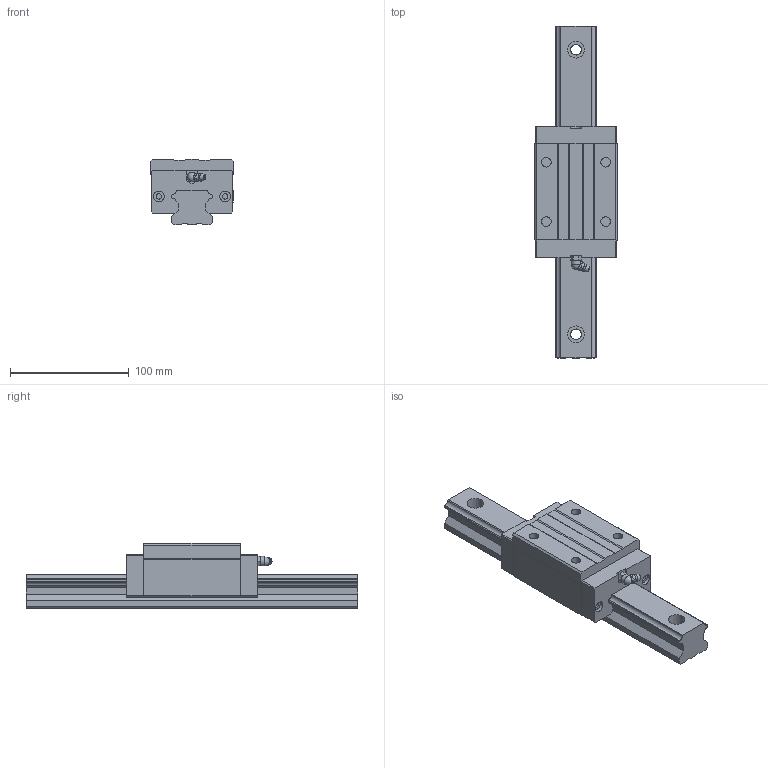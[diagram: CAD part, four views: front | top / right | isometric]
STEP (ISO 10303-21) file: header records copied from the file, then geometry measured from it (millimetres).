
FILE_DESCRIPTION(/* description */ (''),/* implementation_level */ '2;1');
FILE_NAME(/* name */ '123',/* time_stamp */ '2005-10-06T18:53:26+08:00',/* author */ (''),/* organization */ (''),/* preprocessor_version */ 'ST-DEVELOPER v9',/* originating_system */ 'UGS - NX 3.0',/* authorisation */ '');
FILE_SCHEMA (('CONFIG_CONTROL_DESIGN'));
Length unit declared in the file: millimetre
Products named in the file (1): john2E70xb25
Bounding box: 70 x 280 x 55 mm (x, y, z)
Volume: 487062.1 mm3; surface area: 79350.2 mm2
Topology: 3 solids, 3 shells, 185 faces, 489 edges, 322 vertices
Faces by surface type: plane 143, cylinder 31, torus 7, sphere 2, cone 1, bspline 1
Full cylindrical faces by diameter (mm): 4.5 x4, 8 x5, 9 x8, 14 x4
Entity records: 5739 total; most frequent: CARTESIAN_POINT 1130, DIRECTION 916, ORIENTED_EDGE 914, EDGE_CURVE 457, LINE 332, VECTOR 332, VERTEX_POINT 316, AXIS2_PLACEMENT_3D 292
